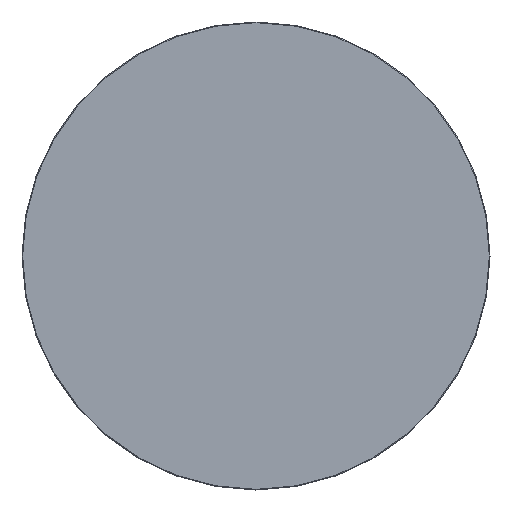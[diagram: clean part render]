
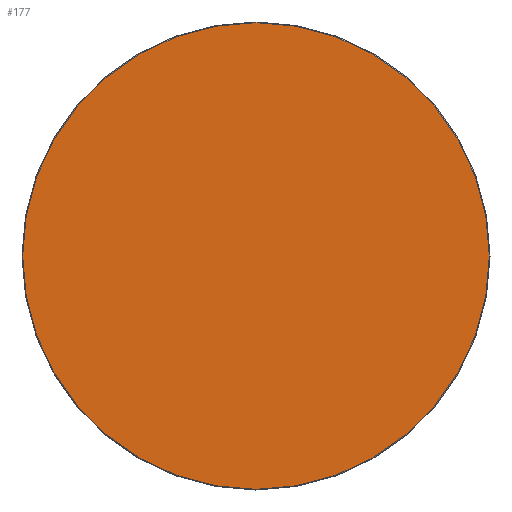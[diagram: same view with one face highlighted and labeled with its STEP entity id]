
A CAD part, left-side view. The second image highlights one B-rep face of the part: STEP entity #177.
In plain terms, the highlighted planar face has unit normal (-1, 0, 0).
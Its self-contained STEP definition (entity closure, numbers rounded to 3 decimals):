
#177 = ADVANCED_FACE ( 'NONE', ( #944 ), #703, .F. ) ;
#190 = EDGE_LOOP ( 'NONE', ( #1046, #1220 ) ) ;
#254 = CARTESIAN_POINT ( 'NONE',  ( 0., 0., 105.7 ) ) ;
#361 = EDGE_CURVE ( 'NONE', #1466, #837, #767, .T. ) ;
#384 = EDGE_CURVE ( 'NONE', #837, #1466, #1469, .T. ) ;
#606 = DIRECTION ( 'NONE',  ( 0., 0., 1. ) ) ;
#615 = DIRECTION ( 'NONE',  ( -1., 0., 0. ) ) ;
#703 = PLANE ( 'NONE',  #1183 ) ;
#767 = CIRCLE ( 'NONE', #1323, 105.7 ) ;
#837 = VERTEX_POINT ( 'NONE', #254 ) ;
#862 = DIRECTION ( 'NONE',  ( 0., 0., -1. ) ) ;
#944 = FACE_OUTER_BOUND ( 'NONE', #190, .T. ) ;
#1027 = DIRECTION ( 'NONE',  ( 1., 0., 0. ) ) ;
#1046 = ORIENTED_EDGE ( 'NONE', *, *, #361, .T. ) ;
#1183 = AXIS2_PLACEMENT_3D ( 'NONE', #1978, #1027, #862 ) ;
#1220 = ORIENTED_EDGE ( 'NONE', *, *, #384, .T. ) ;
#1245 = DIRECTION ( 'NONE',  ( -1., 0., 0. ) ) ;
#1323 = AXIS2_PLACEMENT_3D ( 'NONE', #1558, #615, #606 ) ;
#1395 = CARTESIAN_POINT ( 'NONE',  ( 0., 0., 0. ) ) ;
#1459 = CARTESIAN_POINT ( 'NONE',  ( 0., 0., -105.7 ) ) ;
#1466 = VERTEX_POINT ( 'NONE', #1459 ) ;
#1469 = CIRCLE ( 'NONE', #2021, 105.7 ) ;
#1558 = CARTESIAN_POINT ( 'NONE',  ( 0., 0., 0. ) ) ;
#1869 = DIRECTION ( 'NONE',  ( 0., 0., 1. ) ) ;
#1978 = CARTESIAN_POINT ( 'NONE',  ( 0., 0., 0. ) ) ;
#2021 = AXIS2_PLACEMENT_3D ( 'NONE', #1395, #1245, #1869 ) ;
